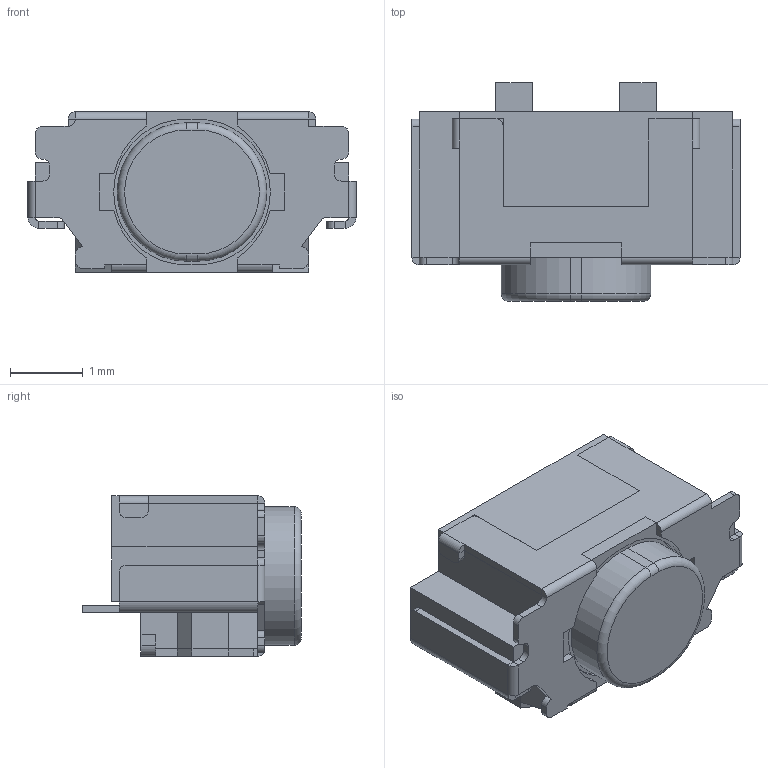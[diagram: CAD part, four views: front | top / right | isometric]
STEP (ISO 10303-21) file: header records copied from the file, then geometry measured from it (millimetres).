
FILE_DESCRIPTION((''),'2;1');
FILE_NAME('JQD2245-B0261-06BEG-1-105_ASM','2026-05-21T16:01:42',('Admin'),(''),'CREO PARAMETRIC BY PTC INC, 2019224','CREO PARAMETRIC BY PTC INC, 2019224','');
FILE_SCHEMA(('AUTOMOTIVE_DESIGN { 1 0 10303 214 1 1 1 1 }'));
Length unit declared in the file: millimetre
Products named in the file (3): JQD2245-B0261-06BEG-1-105_01; JQD2245-B0261-06BEG-1-105_02; JQD2245-B0261-06BEG-1-105_ASM
Assembly tree (2 placements, depth 2):
  JQD2245-B0261-06BEG-1-105_ASM
    JQD2245-B0261-06BEG-1-105_01
    JQD2245-B0261-06BEG-1-105_02
Bounding box: 4.5 x 3 x 2.2 mm (x, y, z)
Volume: 17.1 mm3; surface area: 85.6 mm2
Topology: 3 solids, 3 shells, 240 faces, 599 edges, 366 vertices
Faces by surface type: plane 184, cylinder 54, torus 2
Entity records: 9077 total; most frequent: CARTESIAN_POINT 1219, DIRECTION 1203, ORIENTED_EDGE 1198, PRESENTATION_STYLE_ASSIGNMENT 615, STYLED_ITEM 605, CURVE_STYLE 602, EDGE_CURVE 599, VECTOR 489
